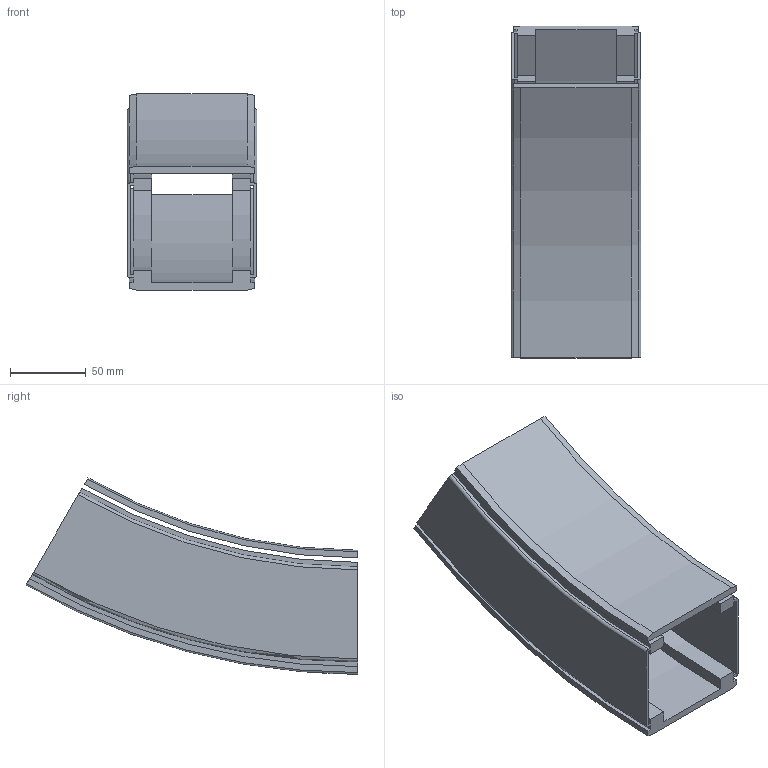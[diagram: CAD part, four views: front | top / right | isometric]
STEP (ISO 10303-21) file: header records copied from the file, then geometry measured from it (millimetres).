
FILE_DESCRIPTION(/* description */ ('VERTIKALKURVA S530 R400'),/* implementation_level */ '2;1');
FILE_NAME(/* name */ '530-5645+830-2000-NER-01.stp',/* time_stamp */ '2022-09-21T07:11:09+02:00',/* author */ ('Mathias.Dore'),/* organization */ ('CARRYLINE'),/* preprocessor_version */ 'ST-DEVELOPER v19.2',/* originating_system */ 'Autodesk Inventor 2023',/* authorisation */ '');
FILE_SCHEMA (('AUTOMOTIVE_DESIGN { 1 0 10303 214 3 1 1 }'));
Length unit declared in the file: millimetre
Products named in the file (1): 530-5645+830-2000-NER-01
Bounding box: 86 x 219.75 x 129.9 mm (x, y, z)
Volume: 310279.7 mm3; surface area: 152380 mm2
Topology: 2 solids, 2 shells, 87 faces, 234 edges, 156 vertices
Faces by surface type: plane 40, cylinder 25, bspline 14, cone 4, torus 4
Entity records: 7354 total; most frequent: CARTESIAN_POINT 5155, ORIENTED_EDGE 468, DIRECTION 408, EDGE_CURVE 234, VERTEX_POINT 156, AXIS2_PLACEMENT_3D 141, LINE 126, VECTOR 126
